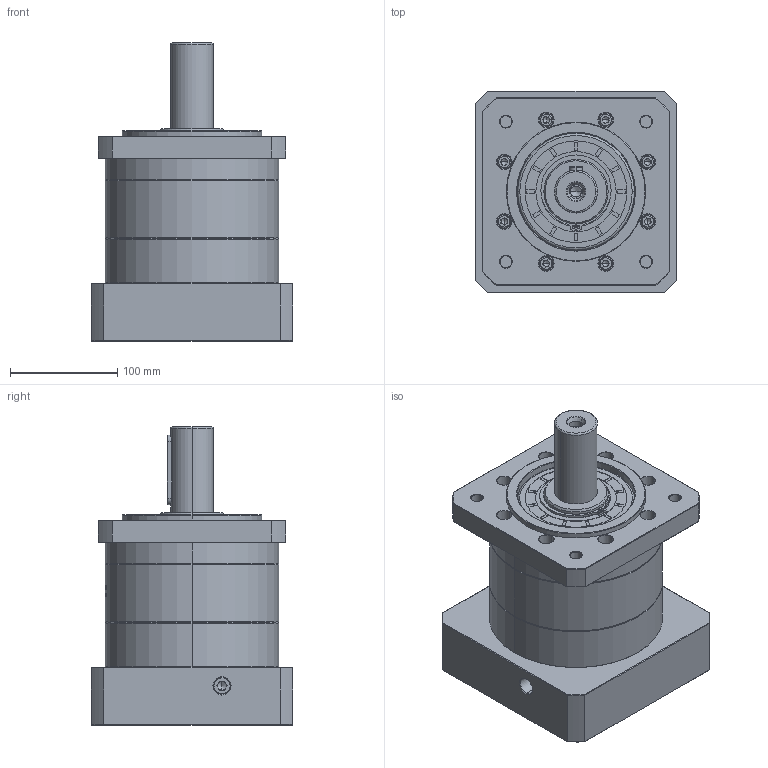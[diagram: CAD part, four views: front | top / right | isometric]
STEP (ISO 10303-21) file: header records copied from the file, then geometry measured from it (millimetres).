
FILE_DESCRIPTION (( 'STEP AP214' ), '1' );
FILE_NAME ('ZF160-D40-L1-38-180-215-M12.step', '2023-03-21T04:28:49', ( '' ), ( '' ), 'SwSTEP 2.0', 'SolidWorks 2016', '' );
FILE_SCHEMA (( 'AUTOMOTIVE_DESIGN' ));
Length unit declared in the file: millimetre
Products named in the file (1): ZF160-D40-L1-38-180-215-M12
Bounding box: 188 x 188 x 278.2 mm (x, y, z)
Volume: 4477108.3 mm3; surface area: 355468 mm2
Topology: 6 solids, 6 shells, 1618 faces, 4212 edges, 2698 vertices
Faces by surface type: plane 644, cylinder 408, cone 326, bspline 218, torus 22
Entity records: 93242 total; most frequent: CARTESIAN_POINT 37931, ORIENTED_EDGE 8364, DIRECTION 7107, EDGE_CURVE 4182, VERTEX_POINT 2698, AXIS2_PLACEMENT_3D 2466, LINE 2175, VECTOR 2175
